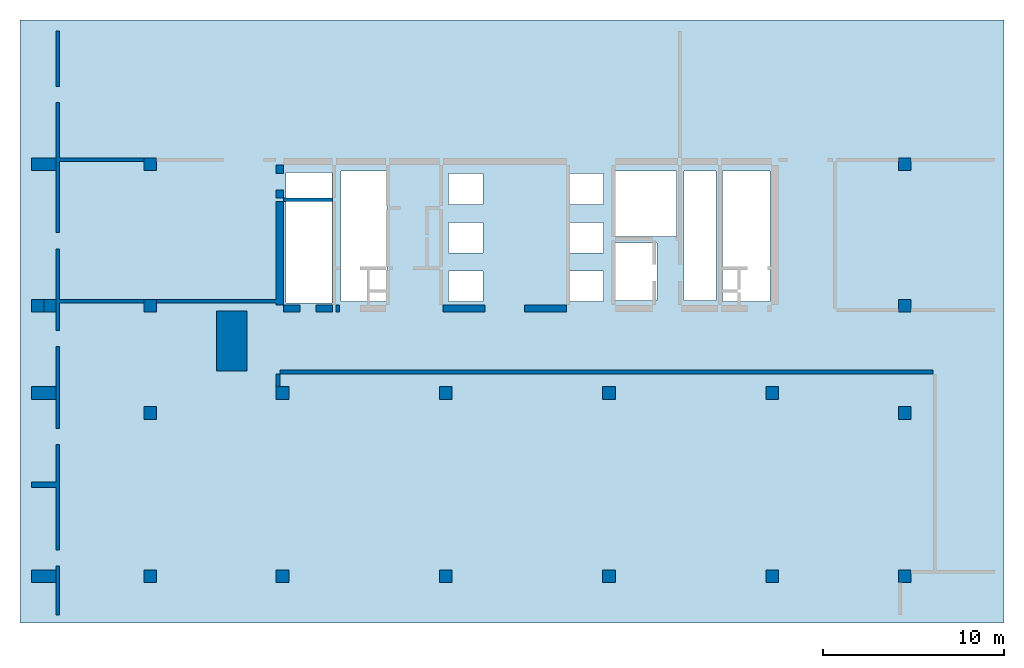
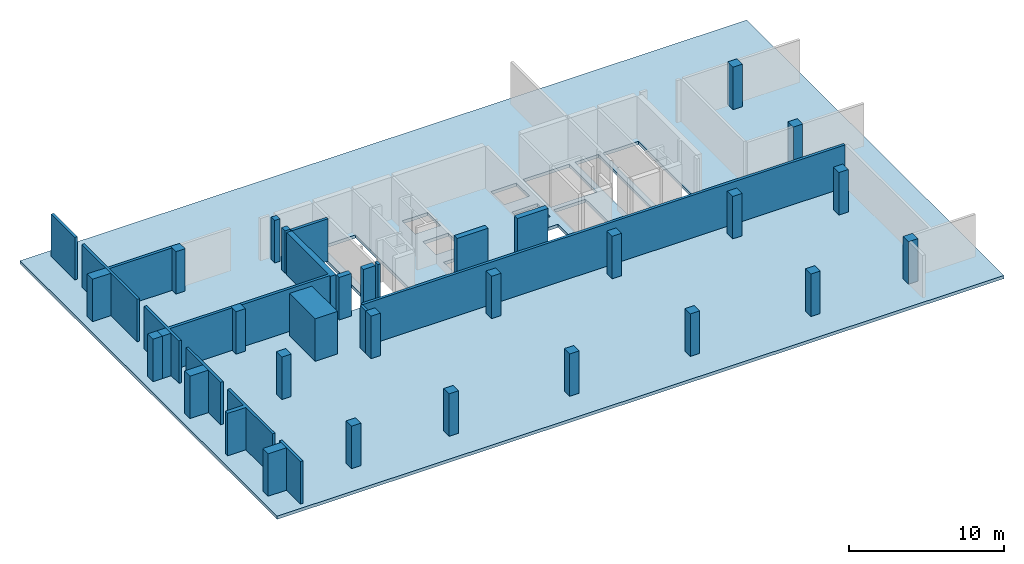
# One storey, part 1 of 2: 21 columns, 18 walls, 1 slab.
"""IFC4 building model written with IfcOpenShell, lengths in millimetres."""

import ifcopenshell
import ifcopenshell.guid

model = None  # the IFC model being written
_history = None  # IfcOwnerHistory: only IFC2X3 demands one
_inside = {}  # id of a spatial element -> (the spatial element, [elements in it])
_under = {}  # id of a project, library or spatial element -> (it, [spatial elements below it])
_declared = {}  # id of a project -> (the project, [libraries it declares])
_typed = {}  # id of a type object -> (the type object, [elements of that type])
_made_of = {}  # id of a material, layer set ... -> (it, [elements and type objects made of it])


def new_model(schema):
    """Start an empty IFC model of exactly this schema.

    Asked for "IFC4X3", IfcOpenShell would pick the latest addendum, in which some entities
    have other attributes; the version numbers below select the first issue.
    IFC2X3 requires an IfcOwnerHistory on every rooted entity: one is made here for all.
    """
    global model, _history
    if schema == "IFC4X3":
        model = ifcopenshell.file(schema_version=(4, 3, 0, 0))
    else:
        model = ifcopenshell.file(schema=schema)
    _inside.clear()
    _under.clear()
    _declared.clear()
    _typed.clear()
    _made_of.clear()
    _history = None
    if model.schema == "IFC2X3":
        org = make("IfcOrganization", Name="unknown")
        user = make(
            "IfcPersonAndOrganization",
            ThePerson=make("IfcPerson", FamilyName="unknown"),
            TheOrganization=org,
        )
        app = make(
            "IfcApplication",
            ApplicationDeveloper=org,
            Version="unknown",
            ApplicationFullName="unknown",
            ApplicationIdentifier="unknown",
        )
        _history = make(
            "IfcOwnerHistory",
            OwningUser=user,
            OwningApplication=app,
            ChangeAction="ADDED",
            CreationDate=0,
        )
    return model


def make(cls, **values):
    """One entity of the class cls with the attributes given. An attribute that is None is left unset."""
    return model.create_entity(
        cls, **{name: value for name, value in values.items() if value is not None}
    )


def rooted(cls, **values):
    """An entity with a GlobalId (a new one), such as an element, a storey or a relation."""
    return make(cls, GlobalId=ifcopenshell.guid.new(), OwnerHistory=_history, **values)


def si_unit(unit_type, name, prefix=None):
    """IfcSIUnit, for example si_unit("LENGTHUNIT", "METRE", prefix="MILLI")."""
    return make("IfcSIUnit", UnitType=unit_type, Prefix=prefix, Name=name)


def assignment(units):
    """IfcUnitAssignment: the units of a project."""
    return None if units is None else make("IfcUnitAssignment", Units=units)


def point(xyz):
    """IfcCartesianPoint."""
    return None if xyz is None else make("IfcCartesianPoint", Coordinates=xyz)


def direction(xyz):
    """IfcDirection."""
    return None if xyz is None else make("IfcDirection", DirectionRatios=xyz)


def frame(location, z_axis=None, x_axis=None):
    """IfcAxis2Placement3D, a coordinate frame: its origin and axes. An axis left out is left unset."""
    return make(
        "IfcAxis2Placement3D",
        Location=point(location),
        Axis=direction(z_axis),
        RefDirection=direction(x_axis),
    )


def origin():
    """The frame at (0, 0, 0) with its axes left unset."""
    return frame((0.0, 0.0, 0.0))


def place(relative_to, where):
    """IfcLocalPlacement: puts the frame where relative to a parent placement (None: the world)."""
    return make(
        "IfcLocalPlacement", PlacementRelTo=relative_to, RelativePlacement=where
    )


def context(
    kind, dimensions, precision=None, world=None, true_north=None, identifier=None
):
    """IfcGeometricRepresentationContext, for example the 3D "Model" context."""
    return make(
        "IfcGeometricRepresentationContext",
        ContextIdentifier=identifier,
        ContextType=kind,
        CoordinateSpaceDimension=dimensions,
        Precision=precision,
        WorldCoordinateSystem=world,
        TrueNorth=true_north,
    )


def project(units=None, contexts=None):
    """IfcProject with its units and contexts."""
    return rooted(
        "IfcProject",
        Name="project",
        RepresentationContexts=contexts,
        UnitsInContext=assignment(units),
    )


def spatial(cls, under=None, at=None, **own):
    """A site, building, storey or space (cls), placed at a placement, below another one or the project."""
    s = rooted(cls, ObjectPlacement=at, **own)
    if under is not None:
        _under.setdefault(under.id(), (under, []))[1].append(s)
    return s


def point_list(points):
    """IfcCartesianPointList2D or 3D."""
    cls = (
        "IfcCartesianPointList2D" if len(points[0]) == 2 else "IfcCartesianPointList3D"
    )
    return make(cls, CoordList=points)


def triangles(points, corners, closed=None, point_numbers=None):
    """IfcTriangulatedFaceSet: each triangle names its three corners, points numbered from 1."""
    return make(
        "IfcTriangulatedFaceSet",
        Coordinates=point_list(points),
        Closed=closed,
        CoordIndex=corners,
        PnIndex=point_numbers,
    )


def shape(context_of_items, identifier, shape_type, items):
    """IfcShapeRepresentation: the items that make up one representation, for example the "Body"."""
    return make(
        "IfcShapeRepresentation",
        ContextOfItems=context_of_items,
        RepresentationIdentifier=identifier,
        RepresentationType=shape_type,
        Items=items,
    )


def made_of(thing, what):
    """Note that an element or type object is made of a material, layer set ...; save() writes the relation."""
    if what is not None:
        _made_of.setdefault(what.id(), (what, []))[1].append(thing)
    return thing


def element(
    cls,
    number,
    at=None,
    inside=None,
    cuts=None,
    type_object=None,
    material=None,
    context=None,
    identifier="Body",
    shape_type=None,
    held_by="IfcProductDefinitionShape",
    body=None,
    shapes=None,
    **own,
):
    """One element of the class cls, such as IfcWall. Its Tag is "e" and its number.

    at: its placement. inside: the storey or other place that contains it. cuts: it is an
    opening in that element (IfcRelVoidsElement). A single representation is given by context,
    identifier, shape_type and body (its items); several are given by shapes. held_by: the class
    of the entity that holds the representations. save() writes the other relations.
    """
    e = rooted(cls, Tag="e%d" % number, ObjectPlacement=at, **own)
    if body is not None:
        shapes = [shape(context, identifier, shape_type, body)]
    if shapes is not None:
        e.Representation = make(held_by, Representations=shapes)
    if inside is not None:
        _inside.setdefault(inside.id(), (inside, []))[1].append(e)
    if cuts is not None:
        rooted(
            "IfcRelVoidsElement", RelatingBuildingElement=cuts, RelatedOpeningElement=e
        )
    if type_object is not None:
        _typed.setdefault(type_object.id(), (type_object, []))[1].append(e)
    return made_of(e, material)


def aggregate(whole, parts):
    """IfcRelAggregates: a whole, such as a stair, and the parts it consists of."""
    return rooted("IfcRelAggregates", RelatingObject=whole, RelatedObjects=parts)


def save(model, path):
    """Write the relations noted so far, then the file.

    IfcRelAggregates (storeys below a building ...), IfcRelContainedInSpatialStructure (elements
    in a storey), IfcRelDefinesByType, IfcRelAssociatesMaterial and IfcRelDeclares: one each for
    every whole, place, type object, material and project.
    """
    for whole, parts in _under.values():
        aggregate(whole, parts)
    for where, things in _inside.values():
        rooted(
            "IfcRelContainedInSpatialStructure",
            RelatedElements=things,
            RelatingStructure=where,
        )
    for kind, things in _typed.values():
        rooted("IfcRelDefinesByType", RelatedObjects=things, RelatingType=kind)
    for what, things in _made_of.values():
        rooted("IfcRelAssociatesMaterial", RelatedObjects=things, RelatingMaterial=what)
    for by, libraries in _declared.values():
        rooted("IfcRelDeclares", RelatingContext=by, RelatedDefinitions=libraries)
    model.write(path)


model = new_model("IFC4")

# Units and contexts
model_context = context("Model", 3, precision=0.001, world=origin())
ifc_project = project(units=[si_unit("LENGTHUNIT", "METRE", prefix="MILLI"), si_unit("AREAUNIT", "SQUARE_METRE"), si_unit("VOLUMEUNIT", "CUBIC_METRE")], contexts=[model_context])

# Site, building, storey
site_placement = place(None, origin())
site = spatial("IfcSite", under=ifc_project, at=site_placement, Name="Site", CompositionType="ELEMENT")
building_placement = place(site_placement, origin())
building = spatial("IfcBuilding", under=site, at=building_placement, Name="INNOCEAN", CompositionType="ELEMENT")
storey_placement = place(building_placement, frame((0.0, 0.0, -30600.0)))
storey = spatial("IfcBuildingStorey", under=building, at=storey_placement, Name="B8", CompositionType="ELEMENT", Elevation=-30600.0)

# Columns
column_1_placement = place(storey_placement, origin())
element("IfcColumn", 1, at=column_1_placement, inside=storey, Name="B8_Columns_B8_001", context=model_context, shape_type="Tessellation", body=[
    triangles([(40114.8, 2023.7, 0.0), (40114.8, 2023.7, 3350.0), (40114.8, 2722.3, 0.0), (40114.8, 2722.3, 3350.0), (40813.0, 2023.7, 3350.0), (40813.0, 2023.7, 0.0), (40813.0, 2722.3, 0.0), (40813.0, 2722.3, 3350.0)], [[1, 2, 3], [3, 2, 4], [5, 6, 7], [5, 7, 8], [6, 5, 1], [1, 5, 2], [8, 7, 3], [8, 3, 4], [3, 7, 1], [1, 7, 6], [8, 4, 2], [8, 2, 5]], closed=True),
])
column_2_placement = place(storey_placement, origin())
element("IfcColumn", 2, at=column_2_placement, inside=storey, Name="B8_Columns_B8_002", context=model_context, shape_type="Tessellation", body=[
    triangles([(5843.1, 24721.0, 0.0), (5843.1, 24721.0, 3350.0), (5843.1, 25419.5, 0.0), (5843.1, 25419.5, 3350.0), (6541.2, 24721.0, 3350.0), (6541.2, 24721.0, 0.0), (6541.2, 25419.5, 0.0), (6541.2, 25419.5, 3350.0)], [[1, 2, 3], [3, 2, 4], [5, 6, 7], [5, 7, 8], [6, 5, 1], [1, 5, 2], [8, 7, 3], [8, 3, 4], [1, 3, 6], [3, 7, 6], [4, 2, 5], [8, 4, 5]], closed=True),
])
column_3_placement = place(storey_placement, origin())
element("IfcColumn", 3, at=column_3_placement, inside=storey, Name="B8_Columns_B8_003", context=model_context, shape_type="Tessellation", body=[
    triangles([(5843.1, 16922.4, 0.0), (5843.1, 16922.4, 3350.0), (5843.1, 17620.9, 0.0), (5843.1, 17620.9, 3350.0), (6541.2, 16922.4, 3350.0), (6541.2, 16922.4, 0.0), (6541.2, 17620.9, 0.0), (6541.2, 17620.9, 3350.0)], [[1, 2, 3], [3, 2, 4], [5, 6, 7], [5, 7, 8], [6, 5, 1], [1, 5, 2], [8, 7, 3], [8, 3, 4], [1, 3, 6], [3, 7, 6], [4, 2, 5], [8, 4, 5]], closed=True),
])
column_4_placement = place(storey_placement, origin())
element("IfcColumn", 4, at=column_4_placement, inside=storey, Name="B8_Columns_B8_004", context=model_context, shape_type="Tessellation", body=[
    triangles([(47413.4, 24721.0, 0.0), (47413.4, 24721.0, 3350.0), (47413.4, 25419.5, 0.0), (47413.4, 25419.5, 3350.0), (48111.6, 24721.0, 3350.0), (48111.6, 24721.0, 0.0), (48111.6, 25419.5, 0.0), (48111.6, 25419.5, 3350.0)], [[1, 2, 3], [3, 2, 4], [5, 6, 7], [5, 7, 8], [6, 5, 1], [1, 5, 2], [8, 7, 3], [8, 3, 4], [1, 3, 6], [3, 7, 6], [4, 2, 5], [8, 4, 5]], closed=True),
])
column_5_placement = place(storey_placement, origin())
element("IfcColumn", 5, at=column_5_placement, inside=storey, Name="B8_Columns_B8_005", context=model_context, shape_type="Tessellation", body=[
    triangles([(47413.4, 16922.4, 0.0), (47413.4, 16922.4, 3350.0), (47413.4, 17620.9, 0.0), (47413.4, 17620.9, 3350.0), (48111.6, 16922.4, 3350.0), (48111.6, 16922.4, 0.0), (48111.6, 17620.9, 0.0), (48111.6, 17620.9, 3350.0)], [[1, 2, 3], [3, 2, 4], [5, 6, 7], [5, 7, 8], [6, 5, 1], [1, 5, 2], [8, 7, 3], [8, 3, 4], [1, 3, 6], [3, 7, 6], [4, 2, 5], [8, 4, 5]], closed=True),
])
column_6_placement = place(storey_placement, origin())
element("IfcColumn", 6, at=column_6_placement, inside=storey, Name="B8_Columns_B8_006", context=model_context, shape_type="Tessellation", body=[
    triangles([(-363.9, 16922.4, 0.0), (-363.9, 16922.4, 3350.0), (-363.9, 17620.9, 0.0), (-363.9, 17620.9, 3350.0), (994.3, 16922.4, 3350.0), (994.3, 16922.4, 0.0), (994.3, 17620.9, 0.0), (994.3, 17620.9, 3350.0)], [[1, 2, 3], [3, 2, 4], [5, 6, 7], [5, 7, 8], [6, 5, 1], [1, 5, 2], [8, 7, 3], [8, 3, 4], [3, 7, 1], [1, 7, 6], [8, 4, 2], [8, 2, 5]], closed=True),
])
column_7_placement = place(storey_placement, origin())
element("IfcColumn", 7, at=column_7_placement, inside=storey, Name="B8_Columns_B8_007", context=model_context, shape_type="Tessellation", body=[
    triangles([(13129.0, 2023.7, 0.0), (13129.0, 2023.7, 3350.0), (13129.0, 2722.3, 0.0), (13129.0, 2722.3, 3350.0), (13827.2, 2023.7, 3350.0), (13827.2, 2023.7, 0.0), (13827.2, 2722.3, 0.0), (13827.2, 2722.3, 3350.0)], [[1, 2, 3], [3, 2, 4], [5, 6, 7], [5, 7, 8], [6, 5, 1], [1, 5, 2], [8, 7, 3], [8, 3, 4], [3, 7, 1], [1, 7, 6], [8, 4, 2], [8, 2, 5]], closed=True),
])
column_8_placement = place(storey_placement, origin())
element("IfcColumn", 8, at=column_8_placement, inside=storey, Name="B8_Columns_B8_008", context=model_context, shape_type="Tessellation", body=[
    triangles([(-363.9, 16922.4, 0.0), (-363.9, 16922.4, 3350.0), (-363.9, 17620.9, 0.0), (-363.9, 17620.9, 3350.0), (334.3, 16922.4, 3350.0), (334.3, 16922.4, 0.0), (334.3, 17620.9, 0.0), (334.3, 17620.9, 3350.0)], [[1, 2, 3], [3, 2, 4], [5, 6, 7], [5, 7, 8], [6, 5, 1], [1, 5, 2], [8, 7, 3], [8, 3, 4], [3, 7, 1], [1, 7, 6], [8, 4, 2], [8, 2, 5]], closed=True),
])
column_9_placement = place(storey_placement, origin())
element("IfcColumn", 9, at=column_9_placement, inside=storey, Name="B8_Columns_B8_009", context=model_context, shape_type="Tessellation", body=[
    triangles([(47413.4, 2023.7, 0.0), (47413.4, 2023.7, 3350.0), (47413.4, 2722.3, 0.0), (47413.4, 2722.3, 3350.0), (48111.6, 2023.7, 3350.0), (48111.6, 2023.7, 0.0), (48111.6, 2722.3, 0.0), (48111.6, 2722.3, 3350.0)], [[1, 2, 3], [3, 2, 4], [5, 6, 7], [5, 7, 8], [6, 5, 1], [1, 5, 2], [8, 7, 3], [8, 3, 4], [3, 7, 1], [1, 7, 6], [8, 4, 2], [8, 2, 5]], closed=True),
])
column_10_placement = place(storey_placement, origin())
element("IfcColumn", 10, at=column_10_placement, inside=storey, Name="B8_Columns_B8_010", context=model_context, shape_type="Tessellation", body=[
    triangles([(13129.0, 12121.3, 0.0), (13129.0, 12121.3, 3350.0), (13129.0, 12819.8, 0.0), (13129.0, 12819.8, 3350.0), (13827.2, 12121.3, 3350.0), (13827.2, 12121.3, 0.0), (13827.2, 12819.8, 0.0), (13827.2, 12819.8, 3350.0)], [[1, 2, 3], [3, 2, 4], [5, 6, 7], [5, 7, 8], [6, 5, 1], [1, 5, 2], [8, 7, 3], [8, 3, 4], [3, 7, 1], [1, 7, 6], [8, 4, 2], [8, 2, 5]], closed=True),
])
column_11_placement = place(storey_placement, origin())
element("IfcColumn", 11, at=column_11_placement, inside=storey, Name="B8_Columns_B8_011", context=model_context, shape_type="Tessellation", body=[
    triangles([(5843.1, 11016.3, 0.0), (5843.1, 11016.3, 3350.0), (5843.1, 11727.5, 0.0), (5843.1, 11727.5, 3350.0), (6541.2, 11016.3, 3350.0), (6541.2, 11016.3, 0.0), (6541.2, 11727.5, 0.0), (6541.2, 11727.5, 3350.0)], [[1, 2, 3], [3, 2, 4], [5, 6, 7], [5, 7, 8], [6, 5, 1], [1, 5, 2], [8, 7, 3], [8, 3, 4], [3, 7, 1], [1, 7, 6], [8, 4, 2], [8, 2, 5]], closed=True),
])
column_12_placement = place(storey_placement, origin())
element("IfcColumn", 12, at=column_12_placement, inside=storey, Name="B8_Columns_B8_012", context=model_context, shape_type="Tessellation", body=[
    triangles([(40114.8, 12121.3, 0.0), (40114.8, 12121.3, 3350.0), (40114.8, 12819.8, 0.0), (40114.8, 12819.8, 3350.0), (40813.0, 12121.3, 3350.0), (40813.0, 12121.3, 0.0), (40813.0, 12819.8, 0.0), (40813.0, 12819.8, 3350.0)], [[1, 2, 3], [3, 2, 4], [5, 6, 7], [5, 7, 8], [6, 5, 1], [1, 5, 2], [8, 7, 3], [8, 3, 4], [1, 3, 6], [3, 7, 6], [4, 2, 5], [8, 4, 5]], closed=True),
])
column_13_placement = place(storey_placement, origin())
element("IfcColumn", 13, at=column_13_placement, inside=storey, Name="B8_Columns_B8_013", context=model_context, shape_type="Tessellation", body=[
    triangles([(5843.1, 2023.7, 0.0), (5843.1, 2023.7, 3350.0), (5843.1, 2722.3, 0.0), (5843.1, 2722.3, 3350.0), (6541.2, 2023.7, 3350.0), (6541.2, 2023.7, 0.0), (6541.2, 2722.3, 0.0), (6541.2, 2722.3, 3350.0)], [[1, 2, 3], [3, 2, 4], [5, 6, 7], [5, 7, 8], [6, 5, 1], [1, 5, 2], [8, 7, 3], [8, 3, 4], [1, 3, 6], [3, 7, 6], [4, 2, 5], [8, 4, 5]], closed=True),
])
column_14_placement = place(storey_placement, origin())
element("IfcColumn", 14, at=column_14_placement, inside=storey, Name="B8_Columns_B8_014", context=model_context, shape_type="Tessellation", body=[
    triangles([(-363.9, 2023.7, 0.0), (-363.9, 2023.7, 3350.0), (-363.9, 2722.3, 0.0), (-363.9, 2722.3, 3350.0), (994.3, 2023.7, 3350.0), (994.3, 2023.7, 0.0), (994.3, 2722.3, 0.0), (994.3, 2722.3, 3350.0)], [[1, 2, 3], [3, 2, 4], [5, 6, 7], [5, 7, 8], [6, 5, 1], [1, 5, 2], [8, 7, 3], [8, 3, 4], [3, 7, 1], [1, 7, 6], [8, 4, 2], [8, 2, 5]], closed=True),
])
column_15_placement = place(storey_placement, origin())
element("IfcColumn", 15, at=column_15_placement, inside=storey, Name="B8_Columns_B8_015", context=model_context, shape_type="Tessellation", body=[
    triangles([(-363.9, 24721.0, 0.0), (-363.9, 24721.0, 3350.0), (-363.9, 25419.5, 0.0), (-363.9, 25419.5, 3350.0), (994.3, 24721.0, 3350.0), (994.3, 24721.0, 0.0), (994.3, 25419.5, 0.0), (994.3, 25419.5, 3350.0)], [[1, 2, 3], [3, 2, 4], [5, 6, 7], [5, 7, 8], [6, 5, 1], [1, 5, 2], [8, 7, 3], [8, 3, 4], [3, 7, 1], [1, 7, 6], [8, 4, 2], [8, 2, 5]], closed=True),
])
column_16_placement = place(storey_placement, origin())
element("IfcColumn", 16, at=column_16_placement, inside=storey, Name="B8_Columns_B8_016", context=model_context, shape_type="Tessellation", body=[
    triangles([(-363.9, 12121.3, 0.0), (-363.9, 12121.3, 3350.0), (-363.9, 12819.8, 0.0), (-363.9, 12819.8, 3350.0), (994.3, 12121.3, 3350.0), (994.3, 12121.3, 0.0), (994.3, 12819.8, 0.0), (994.3, 12819.8, 3350.0)], [[1, 2, 3], [3, 2, 4], [5, 6, 7], [5, 7, 8], [6, 5, 1], [1, 5, 2], [8, 7, 3], [8, 3, 4], [3, 7, 1], [1, 7, 6], [8, 4, 2], [8, 2, 5]], closed=True),
])
column_17_placement = place(storey_placement, origin())
element("IfcColumn", 17, at=column_17_placement, inside=storey, Name="B8_Columns_B8_017", context=model_context, shape_type="Tessellation", body=[
    triangles([(31128.0, 12121.3, 0.0), (31128.0, 12121.3, 3350.0), (31128.0, 12819.8, 0.0), (31128.0, 12819.8, 3350.0), (31826.2, 12121.3, 3350.0), (31826.2, 12121.3, 0.0), (31826.2, 12819.8, 0.0), (31826.2, 12819.8, 3350.0)], [[1, 2, 3], [3, 2, 4], [5, 6, 7], [5, 7, 8], [6, 5, 1], [1, 5, 2], [8, 7, 3], [8, 3, 4], [3, 7, 1], [1, 7, 6], [8, 4, 2], [8, 2, 5]], closed=True),
])
column_18_placement = place(storey_placement, origin())
element("IfcColumn", 18, at=column_18_placement, inside=storey, Name="B8_Columns_B8_018", context=model_context, shape_type="Tessellation", body=[
    triangles([(22128.5, 12121.3, 0.0), (22128.5, 12121.3, 3350.0), (22128.5, 12819.8, 0.0), (22128.5, 12819.8, 3350.0), (22826.7, 12121.3, 3350.0), (22826.7, 12121.3, 0.0), (22826.7, 12819.8, 0.0), (22826.7, 12819.8, 3350.0)], [[1, 2, 3], [3, 2, 4], [5, 6, 7], [5, 7, 8], [6, 5, 1], [1, 5, 2], [8, 7, 3], [8, 3, 4], [3, 7, 1], [1, 7, 6], [8, 4, 2], [8, 2, 5]], closed=True),
])
column_19_placement = place(storey_placement, origin())
element("IfcColumn", 19, at=column_19_placement, inside=storey, Name="B8_Columns_B8_019", context=model_context, shape_type="Tessellation", body=[
    triangles([(31128.0, 2023.7, 0.0), (31128.0, 2023.7, 3350.0), (31128.0, 2722.3, 0.0), (31128.0, 2722.3, 3350.0), (31826.2, 2023.7, 3350.0), (31826.2, 2023.7, 0.0), (31826.2, 2722.3, 0.0), (31826.2, 2722.3, 3350.0)], [[1, 2, 3], [3, 2, 4], [5, 6, 7], [5, 7, 8], [6, 5, 1], [1, 5, 2], [8, 7, 3], [8, 3, 4], [3, 7, 1], [1, 7, 6], [8, 4, 2], [8, 2, 5]], closed=True),
])
column_20_placement = place(storey_placement, origin())
element("IfcColumn", 20, at=column_20_placement, inside=storey, Name="B8_Columns_B8_020", context=model_context, shape_type="Tessellation", body=[
    triangles([(22128.5, 2023.7, 0.0), (22128.5, 2023.7, 3350.0), (22128.5, 2722.3, 0.0), (22128.5, 2722.3, 3350.0), (22826.7, 2023.7, 3350.0), (22826.7, 2023.7, 0.0), (22826.7, 2722.3, 0.0), (22826.7, 2722.3, 3350.0)], [[1, 2, 3], [3, 2, 4], [5, 6, 7], [5, 7, 8], [6, 5, 1], [1, 5, 2], [8, 7, 3], [8, 3, 4], [3, 7, 1], [1, 7, 6], [8, 4, 2], [8, 2, 5]], closed=True),
])
column_21_placement = place(storey_placement, origin())
element("IfcColumn", 21, at=column_21_placement, inside=storey, Name="B8_Columns_B8_021", context=model_context, shape_type="Tessellation", body=[
    triangles([(47413.4, 11016.3, 0.0), (47413.4, 11016.3, 3350.0), (47413.4, 11727.5, 0.0), (47413.4, 11727.5, 3350.0), (48111.6, 11016.3, 3350.0), (48111.6, 11016.3, 0.0), (48111.6, 11727.5, 0.0), (48111.6, 11727.5, 3350.0)], [[1, 2, 3], [3, 2, 4], [5, 6, 7], [5, 7, 8], [6, 5, 1], [1, 5, 2], [8, 7, 3], [8, 3, 4], [3, 7, 1], [1, 7, 6], [8, 4, 2], [8, 2, 5]], closed=True),
])

# Slab
slab_placement = place(storey_placement, origin())
element("IfcSlab", 22, at=slab_placement, inside=storey, Name="B8_Slab_B8_001", context=model_context, shape_type="Tessellation", body=[
    triangles([(-987.250996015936, 33023.3766233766, 0.0), (53241.0358565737, 33023.3766233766, 0.0), (-987.250996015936, 33023.3766233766, -250.0), (53241.0358565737, 33023.3766233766, -250.0), (-987.250996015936, -211.688311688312, 0.0), (-987.250996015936, -211.688311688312, -250.0), (53241.0358565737, -211.688311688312, 0.0), (53241.0358565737, -211.688311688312, -250.0), (34130.6772908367, 20745.4545454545, -250.0), (31733.0677290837, 20745.4545454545, 0.0), (31733.0677290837, 20745.4545454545, -250.0), (34130.6772908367, 20745.4545454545, 0.0), (31733.0677290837, 17570.1298701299, 0.0), (31733.0677290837, 17570.1298701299, -250.0), (34130.6772908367, 17570.1298701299, 0.0), (34130.6772908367, 17570.1298701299, -250.0), (31168.9243027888, 19193.0735930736, 0.0), (29264.9402390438, 19193.0735930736, 0.0), (29264.9402390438, 19193.0735930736, -250.0), (31168.9243027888, 19193.0735930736, -250.0), (31168.9243027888, 17499.5670995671, 0.0), (31168.9243027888, 17499.5670995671, -250.0), (29264.9402390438, 17499.5670995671, 0.0), (29264.9402390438, 17499.5670995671, -250.0), (31168.9243027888, 21874.4588744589, 0.0), (29264.9402390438, 21874.4588744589, 0.0), (29264.9402390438, 21874.4588744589, -250.0), (31168.9243027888, 21874.4588744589, -250.0), (29264.9402390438, 20180.9523809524, 0.0), (29264.9402390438, 20180.9523809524, -250.0), (31168.9243027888, 20180.9523809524, 0.0), (31168.9243027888, 20180.9523809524, -250.0), (24540.2390438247, 19193.0735930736, -250.0), (22636.2549800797, 19193.0735930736, 0.0), (22636.2549800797, 19193.0735930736, -250.0), (24540.2390438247, 19193.0735930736, 0.0), (22636.2549800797, 17499.5670995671, 0.0), (22636.2549800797, 17499.5670995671, -250.0), (24540.2390438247, 17499.5670995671, 0.0), (24540.2390438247, 17499.5670995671, -250.0), (24540.2390438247, 21874.4588744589, -250.0), (22636.2549800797, 21874.4588744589, 0.0), (22636.2549800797, 21874.4588744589, -250.0), (24540.2390438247, 21874.4588744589, 0.0), (22636.2549800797, 20180.9523809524, 0.0), (22636.2549800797, 20180.9523809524, -250.0), (24540.2390438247, 20180.9523809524, 0.0), (24540.2390438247, 20180.9523809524, -250.0), (16219.1235059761, 24626.4069264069, 0.0), (13680.4780876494, 24626.4069264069, 0.0), (13680.4780876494, 24626.4069264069, -250.0), (16219.1235059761, 24626.4069264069, -250.0), (13680.4780876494, 17429.0043290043, 0.0), (13680.4780876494, 17429.0043290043, -250.0), (16219.1235059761, 17429.0043290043, 0.0), (16219.1235059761, 17429.0043290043, -250.0), (40336.2549800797, 24696.9696969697, -250.0), (37727.0916334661, 24696.9696969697, 0.0), (37727.0916334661, 24696.9696969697, -250.0), (40336.2549800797, 24696.9696969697, 0.0), (37727.0916334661, 17499.5670995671, 0.0), (37727.0916334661, 17499.5670995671, -250.0), (40336.2549800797, 17499.5670995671, 0.0), (40336.2549800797, 17499.5670995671, -250.0), (37374.5019920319, 24696.9696969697, 0.0), (35611.5537848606, 24696.9696969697, 0.0), (35611.5537848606, 24696.9696969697, -250.0), (37374.5019920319, 24696.9696969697, -250.0), (35611.5537848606, 17570.1298701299, 0.0), (35611.5537848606, 17570.1298701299, -250.0), (37374.5019920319, 17570.1298701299, 0.0), (37374.5019920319, 17570.1298701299, -250.0), (35188.4462151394, 24696.9696969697, 0.0), (31733.0677290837, 24696.9696969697, 0.0), (31733.0677290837, 24696.9696969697, -250.0), (35188.4462151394, 24696.9696969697, -250.0), (31733.0677290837, 21098.2683982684, 0.0), (31733.0677290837, 21098.2683982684, -250.0), (35188.4462151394, 21098.2683982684, 0.0), (35188.4462151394, 21098.2683982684, -250.0), (31168.9243027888, 24555.8441558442, 0.0), (29264.9402390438, 24555.8441558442, 0.0), (29264.9402390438, 24555.8441558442, -250.0), (31168.9243027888, 24555.8441558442, -250.0), (29264.9402390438, 22862.3376623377, 0.0), (29264.9402390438, 22862.3376623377, -250.0), (31168.9243027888, 22862.3376623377, 0.0), (31168.9243027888, 22862.3376623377, -250.0), (19251.3944223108, 24696.9696969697, 0.0), (16712.7490039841, 24696.9696969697, 0.0), (16712.7490039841, 24696.9696969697, -250.0), (19251.3944223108, 24696.9696969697, -250.0), (16712.7490039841, 17499.5670995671, 0.0), (16712.7490039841, 17499.5670995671, -250.0), (19251.3944223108, 17499.5670995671, 0.0), (19251.3944223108, 17499.5670995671, -250.0), (24540.2390438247, 24555.8441558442, -250.0), (22636.2549800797, 24555.8441558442, 0.0), (22636.2549800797, 24555.8441558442, -250.0), (24540.2390438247, 24555.8441558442, 0.0), (22636.2549800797, 22862.3376623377, 0.0), (22636.2549800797, 22862.3376623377, -250.0), (24540.2390438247, 22862.3376623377, 0.0), (24540.2390438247, 22862.3376623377, -250.0)], [[1, 2, 3], [3, 2, 4], [5, 1, 6], [6, 1, 3], [2, 7, 4], [4, 7, 8], [7, 5, 8], [8, 5, 6], [9, 10, 11], [12, 10, 9], [10, 13, 14], [10, 14, 11], [15, 12, 9], [15, 9, 16], [14, 15, 16], [13, 15, 14], [17, 18, 19], [17, 19, 20], [21, 17, 20], [21, 20, 22], [23, 21, 22], [23, 22, 24], [18, 23, 24], [18, 24, 19], [25, 26, 27], [25, 27, 28], [26, 29, 30], [26, 30, 27], [31, 25, 28], [31, 28, 32], [29, 31, 32], [29, 32, 30], [33, 34, 35], [36, 34, 33], [34, 37, 38], [34, 38, 35], [39, 36, 33], [39, 33, 40], [38, 39, 40], [37, 39, 38], [41, 42, 43], [44, 42, 41], [42, 45, 46], [42, 46, 43], [47, 44, 41], [47, 41, 48], [46, 47, 48], [45, 47, 46], [49, 50, 51], [49, 51, 52], [50, 53, 54], [50, 54, 51], [55, 49, 52], [55, 52, 56], [53, 55, 56], [53, 56, 54], [57, 58, 59], [60, 58, 57], [58, 61, 62], [58, 62, 59], [63, 60, 57], [63, 57, 64], [62, 63, 64], [61, 63, 62], [65, 66, 67], [65, 67, 68], [66, 69, 70], [66, 70, 67], [71, 65, 68], [71, 68, 72], [69, 71, 72], [69, 72, 70], [73, 74, 75], [73, 75, 76], [74, 77, 78], [74, 78, 75], [79, 73, 76], [79, 76, 80], [77, 79, 80], [77, 80, 78], [81, 82, 83], [81, 83, 84], [82, 85, 86], [82, 86, 83], [87, 81, 84], [87, 84, 88], [85, 87, 88], [85, 88, 86], [89, 90, 91], [89, 91, 92], [90, 93, 94], [90, 94, 91], [95, 89, 92], [95, 92, 96], [93, 95, 96], [93, 96, 94], [97, 98, 99], [100, 98, 97], [98, 101, 102], [98, 102, 99], [103, 100, 97], [103, 97, 104], [102, 103, 104], [101, 103, 102], [63, 61, 7], [7, 2, 63], [71, 69, 61], [61, 69, 7], [69, 15, 7], [2, 60, 63], [13, 21, 15], [15, 21, 7], [79, 12, 69], [69, 12, 15], [2, 58, 60], [2, 65, 58], [13, 17, 21], [21, 23, 7], [17, 10, 31], [2, 66, 65], [12, 77, 10], [10, 77, 31], [2, 73, 66], [66, 73, 79], [31, 18, 17], [77, 25, 31], [31, 29, 18], [77, 87, 25], [23, 39, 7], [2, 74, 73], [74, 81, 87], [87, 85, 25], [25, 85, 26], [23, 36, 39], [18, 36, 23], [74, 82, 81], [29, 47, 18], [18, 47, 36], [26, 44, 29], [29, 44, 47], [47, 45, 36], [36, 45, 34], [34, 95, 37], [45, 95, 34], [85, 103, 26], [26, 103, 44], [82, 103, 85], [45, 42, 95], [103, 42, 44], [82, 100, 103], [103, 101, 42], [39, 5, 7], [37, 5, 39], [95, 5, 37], [95, 55, 5], [93, 55, 95], [55, 53, 5], [101, 89, 42], [42, 89, 95], [98, 89, 101], [90, 49, 93], [93, 49, 55], [90, 50, 49], [50, 1, 53], [89, 1, 90], [53, 1, 5], [90, 1, 50], [2, 1, 74], [74, 1, 82], [82, 1, 100], [100, 1, 98], [98, 1, 89], [13, 10, 17], [69, 66, 79], [65, 71, 58], [58, 71, 61], [77, 74, 87], [79, 77, 12], [62, 64, 8], [4, 8, 64], [70, 72, 62], [70, 62, 8], [16, 70, 8], [57, 4, 64], [22, 14, 16], [22, 16, 8], [9, 80, 70], [9, 70, 16], [59, 4, 57], [68, 4, 59], [20, 14, 22], [24, 22, 8], [11, 20, 32], [67, 4, 68], [78, 9, 11], [78, 11, 32], [76, 4, 67], [76, 67, 80], [19, 32, 20], [28, 78, 32], [30, 32, 19], [88, 78, 28], [40, 24, 8], [75, 4, 76], [84, 75, 88], [86, 88, 28], [86, 28, 27], [33, 24, 40], [33, 19, 24], [83, 75, 84], [48, 30, 19], [48, 19, 33], [41, 27, 30], [41, 30, 48], [46, 48, 33], [46, 33, 35], [96, 35, 38], [96, 46, 35], [104, 86, 27], [104, 27, 41], [104, 83, 86], [43, 46, 96], [43, 104, 41], [97, 83, 104], [102, 104, 43], [6, 40, 8], [6, 38, 40], [6, 96, 38], [56, 96, 6], [56, 94, 96], [54, 56, 6], [92, 102, 43], [92, 43, 96], [92, 99, 102], [52, 91, 94], [52, 94, 56], [51, 91, 52], [3, 51, 54], [3, 92, 91], [3, 54, 6], [3, 91, 51], [3, 4, 75], [3, 75, 83], [3, 83, 97], [3, 97, 99], [3, 99, 92], [11, 14, 20], [67, 70, 80], [72, 68, 59], [72, 59, 62], [75, 78, 88], [78, 80, 9]], closed=True),
])

# Walls
wall_1_placement = place(storey_placement, origin())
element("IfcWall", 23, at=wall_1_placement, inside=storey, Name="B8_Walls_B8_001", context=model_context, shape_type="Tessellation", body=[
    triangles([(1184.7, 2925.5, 0.0), (994.3, 2925.5, 0.0), (994.3, 2925.5, 3350.0), (1184.7, 2925.5, 3350.0), (1184.7, 220.2, 0.0), (1184.7, 220.2, 3350.0), (994.3, 220.2, 0.0), (994.3, 220.2, 3350.0)], [[1, 2, 3], [1, 3, 4], [5, 1, 4], [5, 4, 6], [7, 5, 6], [7, 6, 8], [2, 7, 8], [2, 8, 3], [1, 5, 7], [2, 1, 7], [6, 4, 8], [4, 3, 8]], closed=True),
])
wall_2_placement = place(storey_placement, origin())
element("IfcWall", 24, at=wall_2_placement, inside=storey, Name="B8_Walls_B8_002", context=model_context, shape_type="Tessellation", body=[
    triangles([(-365.0, 7270.0, 0.0), (-363.9, 7270.0, 0.0), (-363.9, 7270.0, 3350.0), (-365.0, 7270.0, 3350.0), (-365.0, 7575.0, 0.0), (-365.0, 7575.0, 3350.0), (994.3, 7575.0, 0.0), (994.3, 7575.0, 3350.0), (994.3, 9619.1, 3350.0), (994.3, 9619.1, 0.0), (995.0, 9619.1, 0.0), (995.0, 9619.1, 3350.0), (995.0, 9620.0, 0.0), (995.0, 9620.0, 3350.0), (1185.0, 9620.0, 0.0), (1185.0, 9620.0, 3350.0), (1185.0, 3825.0, 0.0), (1185.0, 3825.0, 3350.0), (995.0, 3825.0, 0.0), (995.0, 3825.0, 3350.0), (995.0, 3827.3, 0.0), (995.0, 3827.3, 3350.0), (994.3, 3827.3, 0.0), (994.3, 3827.3, 3350.0), (994.3, 7269.4, 3350.0), (994.3, 7269.4, 0.0), (-363.9, 7269.4, 0.0), (-363.9, 7269.4, 3350.0)], [[1, 2, 3], [1, 3, 4], [5, 1, 4], [5, 4, 6], [7, 5, 6], [7, 6, 8], [7, 8, 9], [10, 7, 9], [11, 10, 9], [11, 9, 12], [13, 11, 12], [13, 12, 14], [15, 13, 14], [15, 14, 16], [17, 15, 16], [17, 16, 18], [19, 17, 18], [19, 18, 20], [21, 19, 20], [21, 20, 22], [23, 21, 22], [23, 22, 24], [25, 23, 24], [26, 23, 25], [27, 26, 25], [27, 25, 28], [2, 27, 28], [2, 28, 3], [21, 17, 19], [26, 21, 23], [26, 17, 21], [2, 26, 27], [2, 7, 26], [5, 2, 1], [5, 7, 2], [11, 15, 7], [10, 11, 7], [13, 15, 11], [15, 17, 26], [15, 26, 7], [18, 22, 20], [22, 25, 24], [18, 25, 22], [25, 3, 28], [8, 3, 25], [3, 6, 4], [8, 6, 3], [16, 12, 8], [12, 9, 8], [16, 14, 12], [18, 16, 25], [25, 16, 8]], closed=True),
])
wall_3_placement = place(storey_placement, origin())
element("IfcWall", 25, at=wall_3_placement, inside=storey, Name="B8_Walls_B8_003", context=model_context, shape_type="Tessellation", body=[
    triangles([(995.0, 10520.0, 0.0), (1185.0, 10520.0, 0.0), (1185.0, 10520.0, 3350.0), (995.0, 10520.0, 3350.0), (995.0, 10520.9, 0.0), (995.0, 10520.9, 3350.0), (994.3, 10520.9, 0.0), (994.3, 10520.9, 3350.0), (994.3, 15017.2, 3350.0), (994.3, 15017.2, 0.0), (1184.7, 15017.2, 0.0), (1184.7, 15017.2, 3350.0), (1184.7, 15015.0, 3350.0), (1184.7, 15015.0, 0.0), (1185.0, 15015.0, 0.0), (1185.0, 15015.0, 3350.0)], [[1, 2, 3], [1, 3, 4], [5, 1, 4], [5, 4, 6], [7, 5, 6], [7, 6, 8], [9, 7, 8], [10, 7, 9], [11, 10, 9], [11, 9, 12], [11, 12, 13], [14, 11, 13], [15, 14, 13], [15, 13, 16], [3, 15, 16], [2, 15, 3], [5, 2, 1], [14, 15, 2], [14, 2, 5], [10, 5, 7], [10, 11, 14], [10, 14, 5], [3, 6, 4], [16, 13, 3], [3, 13, 6], [6, 9, 8], [12, 9, 13], [13, 9, 6]], closed=True),
])
wall_4_placement = place(storey_placement, origin())
element("IfcWall", 26, at=wall_4_placement, inside=storey, Name="B8_Walls_B8_004", context=model_context, shape_type="Tessellation", body=[
    triangles([(10690.0, 16975.0, 0.0), (10415.0, 16975.0, 0.0), (10415.0, 16975.0, 3350.0), (10690.0, 16975.0, 3350.0), (10970.0, 16975.0, 3350.0), (10970.0, 16975.0, 0.0), (11250.0, 16975.0, 3350.0), (11250.0, 16975.0, 0.0), (11530.0, 16975.0, 3350.0), (11530.0, 16975.0, 0.0), (11530.0, 13670.0, 0.0), (11530.0, 13670.0, 3350.0), (11250.0, 13670.0, 3350.0), (11250.0, 13670.0, 0.0), (10970.0, 13670.0, 3350.0), (10970.0, 13670.0, 0.0), (10690.0, 13670.0, 3350.0), (10690.0, 13670.0, 0.0), (10415.0, 13670.0, 0.0), (10415.0, 13670.0, 3350.0), (10135.0, 13670.0, 3350.0), (10135.0, 13670.0, 0.0), (9855.0, 13670.0, 3350.0), (9855.0, 13670.0, 0.0), (9855.0, 13670.8, 0.0), (9855.0, 13670.8, 3350.0), (9854.2, 13670.8, 0.0), (9854.2, 13670.8, 3350.0), (9854.2, 16973.2, 0.0), (9854.2, 16973.2, 3350.0), (9855.0, 16973.2, 0.0), (9855.0, 16973.2, 3350.0), (9855.0, 16975.0, 0.0), (9855.0, 16975.0, 3350.0), (10135.0, 16975.0, 3350.0), (10135.0, 16975.0, 0.0)], [[1, 2, 3], [1, 3, 4], [1, 4, 5], [6, 1, 5], [6, 5, 7], [8, 6, 7], [8, 7, 9], [10, 8, 9], [11, 10, 9], [11, 9, 12], [11, 12, 13], [14, 11, 13], [14, 13, 15], [16, 14, 15], [16, 15, 17], [18, 16, 17], [19, 18, 17], [19, 17, 20], [19, 20, 21], [22, 19, 21], [22, 21, 23], [24, 22, 23], [25, 24, 23], [25, 23, 26], [27, 25, 26], [27, 26, 28], [29, 27, 28], [29, 28, 30], [31, 29, 30], [31, 30, 32], [33, 31, 32], [33, 32, 34], [33, 34, 35], [36, 33, 35], [36, 35, 3], [2, 36, 3], [25, 22, 24], [8, 10, 11], [8, 11, 14], [6, 14, 16], [6, 8, 14], [1, 16, 18], [1, 6, 16], [2, 18, 19], [2, 1, 18], [36, 19, 22], [36, 2, 19], [31, 36, 22], [31, 22, 25], [29, 25, 27], [29, 31, 25], [33, 36, 31], [21, 26, 23], [9, 7, 12], [12, 7, 13], [13, 5, 15], [7, 5, 13], [15, 4, 17], [5, 4, 15], [17, 3, 20], [4, 3, 17], [20, 35, 21], [3, 35, 20], [35, 32, 21], [21, 32, 26], [26, 30, 28], [32, 30, 26], [35, 34, 32]], closed=True),
])
wall_5_placement = place(storey_placement, origin())
element("IfcWall", 27, at=wall_5_placement, inside=storey, Name="B8_Walls_B8_005", context=model_context, shape_type="Tessellation", body=[
    triangles([(1184.7, 15919.0, 0.0), (1184.7, 15920.0, 0.0), (1184.7, 15920.0, 3350.0), (1184.7, 15919.0, 3350.0), (994.3, 15919.0, 0.0), (994.3, 15919.0, 3350.0), (994.3, 20415.2, 0.0), (994.3, 20415.2, 3350.0), (1184.7, 20415.2, 0.0), (1184.7, 20415.2, 3350.0), (1184.7, 20415.0, 0.0), (1184.7, 20415.0, 3350.0), (1185.0, 20415.0, 0.0), (1185.0, 20415.0, 3350.0), (1185.0, 17620.9, 0.0), (1185.0, 17620.9, 3350.0), (5843.1, 17620.9, 0.0), (5843.1, 17620.9, 3350.0), (5843.1, 17417.7, 0.0), (5843.1, 17417.7, 3350.0), (1185.0, 17417.7, 0.0), (1185.0, 17417.7, 3350.0), (1185.0, 15920.0, 0.0), (1185.0, 15920.0, 3350.0)], [[1, 2, 3], [1, 3, 4], [5, 1, 4], [5, 4, 6], [7, 5, 6], [7, 6, 8], [9, 7, 8], [9, 8, 10], [11, 9, 10], [11, 10, 12], [13, 11, 12], [13, 12, 14], [15, 13, 14], [15, 14, 16], [17, 15, 16], [17, 16, 18], [19, 17, 18], [19, 18, 20], [21, 19, 20], [21, 20, 22], [23, 21, 22], [23, 22, 24], [2, 23, 24], [2, 24, 3], [5, 2, 1], [21, 23, 2], [21, 2, 5], [15, 17, 19], [15, 19, 21], [11, 13, 15], [7, 9, 11], [7, 11, 15], [5, 7, 15], [5, 15, 21], [3, 6, 4], [24, 22, 3], [3, 22, 6], [18, 16, 20], [20, 16, 22], [14, 12, 16], [10, 8, 12], [12, 8, 16], [8, 6, 16], [16, 6, 22]], closed=True),
])
wall_6_placement = place(storey_placement, origin())
element("IfcWall", 28, at=wall_6_placement, inside=storey, Name="B8_Walls_B8_006", context=model_context, shape_type="Tessellation", body=[
    triangles([(13129.0, 23019.0, 0.0), (13129.0, 17620.9, 0.0), (13129.0, 17620.9, 3350.0), (13129.0, 23019.0, 3350.0), (13535.2, 23019.0, 0.0), (13535.2, 23019.0, 3350.0), (13535.2, 17316.1, 0.0), (13535.2, 17316.1, 3350.0), (13129.0, 17316.1, 0.0), (13129.0, 17316.1, 3350.0), (13129.0, 17417.7, 0.0), (13129.0, 17417.7, 3350.0), (6541.2, 17417.7, 0.0), (6541.2, 17417.7, 3350.0), (6541.2, 17620.9, 0.0), (6541.2, 17620.9, 3350.0)], [[1, 2, 3], [1, 3, 4], [5, 1, 4], [5, 4, 6], [7, 5, 6], [7, 6, 8], [9, 7, 8], [9, 8, 10], [11, 9, 10], [11, 10, 12], [13, 11, 12], [13, 12, 14], [15, 13, 14], [15, 14, 16], [2, 15, 16], [2, 16, 3], [11, 7, 9], [2, 7, 11], [5, 7, 2], [1, 5, 2], [15, 11, 13], [15, 2, 11], [8, 12, 10], [8, 3, 12], [8, 6, 3], [6, 4, 3], [12, 16, 14], [3, 16, 12]], closed=True),
])
wall_7_placement = place(storey_placement, origin())
element("IfcWall", 29, at=wall_7_placement, inside=storey, Name="B8_Walls_B8_007", context=model_context, shape_type="Tessellation", body=[
    triangles([(5843.1, 25419.5, 0.0), (1185.0, 25419.5, 0.0), (1185.0, 25419.5, 3350.0), (5843.1, 25419.5, 3350.0), (5843.1, 25216.3, 0.0), (5843.1, 25216.3, 3350.0), (1185.0, 25216.3, 0.0), (1185.0, 25216.3, 3350.0), (1185.0, 25215.0, 3350.0), (1185.0, 25215.0, 0.0), (1185.0, 21315.0, 0.0), (1185.0, 21315.0, 3350.0), (995.0, 21315.0, 0.0), (995.0, 21315.0, 3350.0), (995.0, 21317.0, 0.0), (995.0, 21317.0, 3350.0), (994.3, 21317.0, 0.0), (994.3, 21317.0, 3350.0), (994.3, 28467.8, 0.0), (994.3, 28467.8, 3350.0), (995.0, 28467.8, 0.0), (995.0, 28467.8, 3350.0), (995.0, 28470.0, 3350.0), (995.0, 28470.0, 0.0), (1185.0, 28470.0, 0.0), (1185.0, 28470.0, 3350.0), (1185.0, 25420.0, 0.0), (1185.0, 25420.0, 3350.0)], [[1, 2, 3], [1, 3, 4], [5, 1, 4], [5, 4, 6], [7, 5, 6], [7, 6, 8], [7, 8, 9], [10, 7, 9], [11, 10, 9], [11, 9, 12], [13, 11, 12], [13, 12, 14], [15, 13, 14], [15, 14, 16], [17, 15, 16], [17, 16, 18], [19, 17, 18], [19, 18, 20], [21, 19, 20], [21, 20, 22], [21, 22, 23], [24, 21, 23], [25, 24, 23], [25, 23, 26], [27, 25, 26], [27, 26, 28], [2, 27, 28], [2, 28, 3], [15, 11, 13], [10, 15, 17], [10, 11, 15], [2, 1, 5], [2, 5, 7], [21, 25, 27], [19, 21, 27], [24, 25, 21], [17, 19, 27], [17, 27, 2], [17, 2, 7], [17, 7, 10], [12, 16, 14], [16, 9, 18], [12, 9, 16], [4, 3, 6], [6, 3, 8], [26, 22, 28], [22, 20, 28], [26, 23, 22], [20, 18, 28], [28, 18, 3], [3, 18, 8], [8, 18, 9]], closed=True),
])
wall_8_placement = place(storey_placement, origin())
element("IfcWall", 30, at=wall_8_placement, inside=storey, Name="B8_Walls_B8_009", context=model_context, shape_type="Tessellation", body=[
    triangles([(1184.7, 32417.9, 0.0), (994.3, 32417.9, 0.0), (994.3, 32417.9, 3350.0), (1184.7, 32417.9, 3350.0), (1184.7, 29369.6, 0.0), (1184.7, 29369.6, 3350.0), (994.3, 29369.6, 0.0), (994.3, 29369.6, 3350.0)], [[1, 2, 3], [1, 3, 4], [5, 1, 4], [5, 4, 6], [7, 5, 6], [7, 6, 8], [2, 7, 8], [2, 8, 3], [2, 1, 5], [2, 5, 7], [4, 3, 6], [6, 3, 8]], closed=True),
])
wall_9_placement = place(storey_placement, origin())
element("IfcWall", 31, at=wall_9_placement, inside=storey, Name="B8_Walls_B8_010", context=model_context, shape_type="Tessellation", body=[
    triangles([(13332.1, 12819.8, 0.0), (13332.1, 13518.4, 0.0), (13332.1, 13518.4, 3350.0), (13332.1, 12819.8, 3350.0), (13129.0, 12819.8, 0.0), (13129.0, 12819.8, 3350.0), (13129.0, 13518.4, 0.0), (13129.0, 13518.4, 3350.0)], [[1, 2, 3], [1, 3, 4], [5, 1, 4], [5, 4, 6], [7, 5, 6], [7, 6, 8], [2, 7, 8], [2, 8, 3], [7, 2, 1], [7, 1, 5], [3, 8, 4], [4, 8, 6]], closed=True),
])
wall_10_placement = place(storey_placement, origin())
element("IfcWall", 32, at=wall_10_placement, inside=storey, Name="B8_Walls_B8_011", context=model_context, shape_type="Tessellation", body=[
    triangles([(14436.4, 16922.4, 0.0), (14436.4, 17316.1, 0.0), (14436.4, 17316.1, 3350.0), (14436.4, 16922.4, 3350.0), (13535.2, 16922.4, 0.0), (13535.2, 16922.4, 3350.0), (13535.2, 17316.1, 0.0), (13535.2, 17316.1, 3350.0)], [[1, 2, 3], [1, 3, 4], [5, 1, 4], [5, 4, 6], [7, 5, 6], [7, 6, 8], [2, 7, 8], [2, 8, 3], [7, 2, 1], [7, 1, 5], [3, 8, 4], [4, 8, 6]], closed=True),
])
wall_11_placement = place(storey_placement, origin())
element("IfcWall", 33, at=wall_11_placement, inside=storey, Name="B8_Walls_B8_012", context=model_context, shape_type="Tessellation", body=[
    triangles([(16226.2, 16922.4, 0.0), (16226.2, 17316.1, 0.0), (16226.2, 17316.1, 3350.0), (16226.2, 16922.4, 3350.0), (15337.6, 16922.4, 0.0), (15337.6, 16922.4, 3350.0), (15337.6, 17316.1, 0.0), (15337.6, 17316.1, 3350.0)], [[1, 2, 3], [1, 3, 4], [5, 1, 4], [5, 4, 6], [7, 5, 6], [7, 6, 8], [2, 7, 8], [2, 8, 3], [7, 2, 1], [7, 1, 5], [3, 8, 4], [4, 8, 6]], closed=True),
])
wall_12_placement = place(storey_placement, origin())
element("IfcWall", 34, at=wall_12_placement, inside=storey, Name="B8_Walls_B8_013", context=model_context, shape_type="Tessellation", body=[
    triangles([(16632.4, 16922.4, 0.0), (16632.4, 17316.1, 0.0), (16632.4, 17316.1, 3350.0), (16632.4, 16922.4, 3350.0), (16429.3, 16922.4, 0.0), (16429.3, 16922.4, 3350.0), (16429.3, 17316.1, 0.0), (16429.3, 17316.1, 3350.0)], [[1, 2, 3], [1, 3, 4], [5, 1, 4], [5, 4, 6], [7, 5, 6], [7, 6, 8], [2, 7, 8], [2, 8, 3], [7, 2, 1], [7, 1, 5], [3, 8, 4], [4, 8, 6]], closed=True),
])
wall_13_placement = place(storey_placement, origin())
element("IfcWall", 35, at=wall_13_placement, inside=storey, Name="B8_Walls_B8_019", context=model_context, shape_type="Tessellation", body=[
    triangles([(13535.2, 23019.0, 0.0), (16226.2, 23019.0, 0.0), (16226.2, 23019.0, 3350.0), (13535.2, 23019.0, 3350.0), (13535.2, 23222.2, 0.0), (13535.2, 23222.2, 3350.0), (16226.2, 23222.2, 0.0), (16226.2, 23222.2, 3350.0)], [[1, 2, 3], [1, 3, 4], [5, 1, 4], [5, 4, 6], [7, 5, 6], [7, 6, 8], [2, 7, 8], [2, 8, 3], [5, 2, 1], [5, 7, 2], [3, 6, 4], [8, 6, 3]], closed=True),
])
wall_14_placement = place(storey_placement, origin())
element("IfcWall", 36, at=wall_14_placement, inside=storey, Name="B8_Walls_B8_020", context=model_context, shape_type="Tessellation", body=[
    triangles([(13535.2, 23222.2, 0.0), (13535.2, 23666.8, 0.0), (13535.2, 23666.8, 3350.0), (13535.2, 23222.2, 3350.0), (13129.0, 23222.2, 0.0), (13129.0, 23222.2, 3350.0), (13129.0, 23666.8, 0.0), (13129.0, 23666.8, 3350.0)], [[1, 2, 3], [1, 3, 4], [5, 1, 4], [5, 4, 6], [7, 5, 6], [7, 6, 8], [2, 7, 8], [2, 8, 3], [7, 2, 1], [7, 1, 5], [3, 8, 4], [4, 8, 6]], closed=True),
])
wall_15_placement = place(storey_placement, origin())
element("IfcWall", 37, at=wall_15_placement, inside=storey, Name="B8_Walls_B8_023", context=model_context, shape_type="Tessellation", body=[
    triangles([(13535.2, 24568.5, 0.0), (13535.2, 25025.8, 0.0), (13535.2, 25025.8, 3350.0), (13535.2, 24568.5, 3350.0), (13129.0, 24568.5, 0.0), (13129.0, 24568.5, 3350.0), (13129.0, 25025.8, 0.0), (13129.0, 25025.8, 3350.0)], [[1, 2, 3], [1, 3, 4], [5, 1, 4], [5, 4, 6], [7, 5, 6], [7, 6, 8], [2, 7, 8], [2, 8, 3], [7, 2, 1], [7, 1, 5], [3, 8, 4], [4, 8, 6]], closed=True),
])
wall_16_placement = place(storey_placement, origin())
element("IfcWall", 38, at=wall_16_placement, inside=storey, Name="B8_Walls_B8_028", context=model_context, shape_type="Tessellation", body=[
    triangles([(49317.4, 13518.4, 0.0), (49317.4, 13721.6, 0.0), (49317.4, 13721.6, 3350.0), (49317.4, 13518.4, 3350.0), (13332.1, 13518.4, 0.0), (13332.1, 13518.4, 3350.0), (13332.1, 13721.6, 0.0), (13332.1, 13721.6, 3350.0)], [[1, 2, 3], [1, 3, 4], [5, 1, 4], [5, 4, 6], [7, 5, 6], [7, 6, 8], [2, 7, 8], [2, 8, 3], [7, 2, 1], [7, 1, 5], [3, 8, 4], [4, 8, 6]], closed=True),
])
wall_17_placement = place(storey_placement, origin())
element("IfcWall", 39, at=wall_17_placement, inside=storey, Name="B8_Walls_B8_029", context=model_context, shape_type="Tessellation", body=[
    triangles([(24629.1, 16922.4, 0.0), (24629.1, 17316.1, 0.0), (24629.1, 17316.1, 3350.0), (24629.1, 16922.4, 3350.0), (22331.6, 16922.4, 0.0), (22331.6, 16922.4, 3350.0), (22331.6, 17316.1, 0.0), (22331.6, 17316.1, 3350.0)], [[1, 2, 3], [1, 3, 4], [5, 1, 4], [5, 4, 6], [7, 5, 6], [7, 6, 8], [2, 7, 8], [2, 8, 3], [7, 2, 1], [7, 1, 5], [3, 8, 4], [4, 8, 6]], closed=True),
])
wall_18_placement = place(storey_placement, origin())
element("IfcWall", 40, at=wall_18_placement, inside=storey, Name="B8_Walls_B8_030", context=model_context, shape_type="Tessellation", body=[
    triangles([(29122.5, 16922.4, 0.0), (29122.5, 17316.1, 0.0), (29122.5, 17316.1, 3350.0), (29122.5, 16922.4, 3350.0), (26825.0, 16922.4, 0.0), (26825.0, 16922.4, 3350.0), (26825.0, 17316.1, 0.0), (26825.0, 17316.1, 3350.0)], [[1, 2, 3], [1, 3, 4], [5, 1, 4], [5, 4, 6], [7, 5, 6], [7, 6, 8], [2, 7, 8], [2, 8, 3], [7, 2, 1], [7, 1, 5], [3, 8, 4], [4, 8, 6]], closed=True),
])

save(model, "model.ifc")
